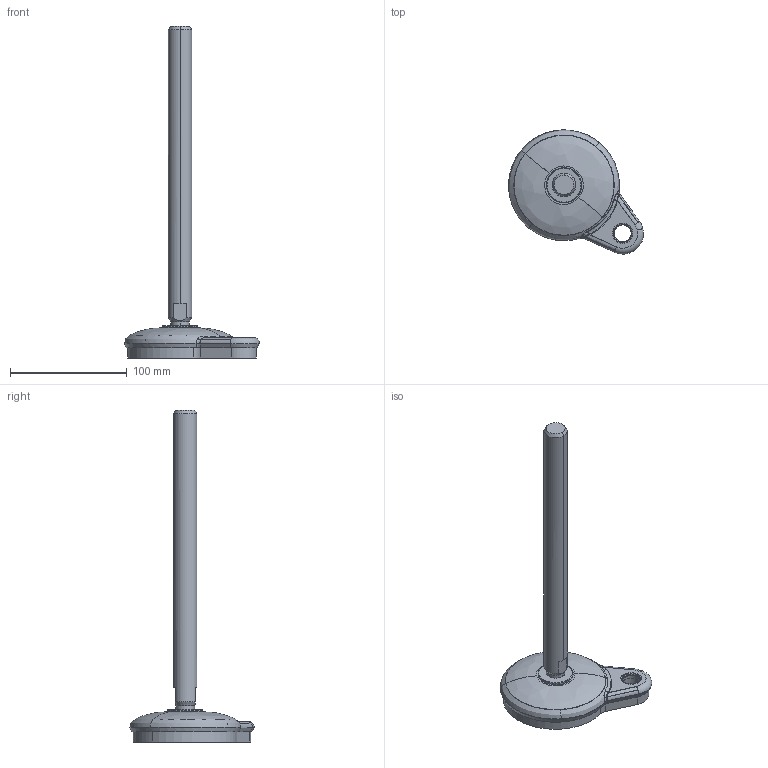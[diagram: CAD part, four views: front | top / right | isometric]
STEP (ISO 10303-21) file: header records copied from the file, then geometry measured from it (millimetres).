
FILE_DESCRIPTION (( 'STEP AP214' ), '1' );
FILE_NAME ('8574894.STEP', '2024-01-24T12:25:12', ( '' ), ( '' ), 'SwSTEP 2.0', 'SolidWorks 2022', '' );
FILE_SCHEMA (( 'AUTOMOTIVE_DESIGN' ));
Length unit declared in the file: millimetre
Products named in the file (1): 8574894
Bounding box: 115.49 x 106.35 x 284.3 mm (x, y, z)
Volume: 247831.6 mm3; surface area: 64891.4 mm2
Topology: 4 solids, 4 shells, 187 faces, 445 edges, 287 vertices
Faces by surface type: cylinder 62, plane 46, torus 33, bspline 32, cone 14
Entity records: 10433 total; most frequent: CARTESIAN_POINT 4012, DIRECTION 929, ORIENTED_EDGE 886, EDGE_CURVE 443, AXIS2_PLACEMENT_3D 411, VERTEX_POINT 287, CIRCLE 255, EDGE_LOOP 218
